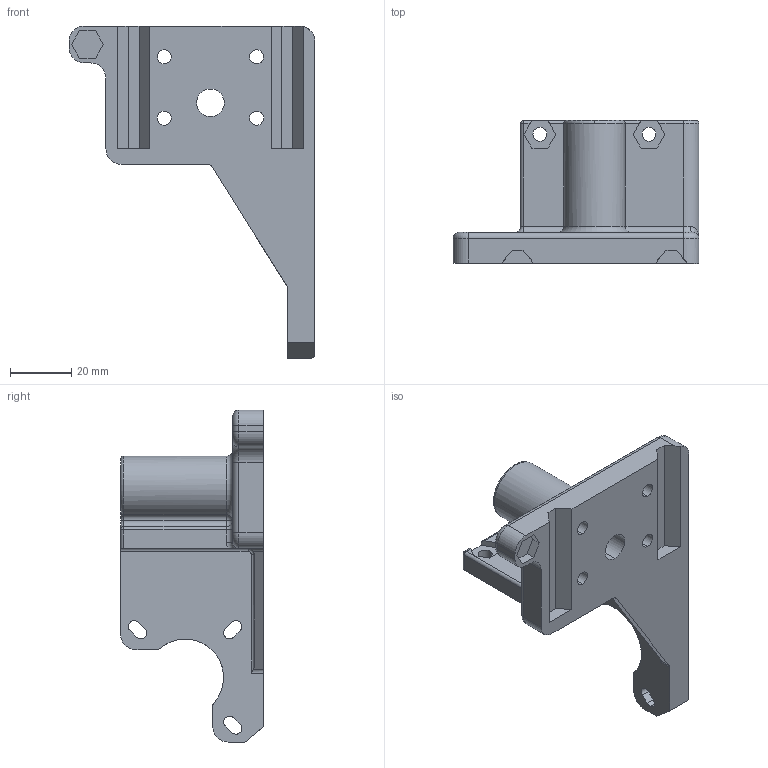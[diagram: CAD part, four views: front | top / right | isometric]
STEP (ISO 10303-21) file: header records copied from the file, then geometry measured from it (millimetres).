
FILE_DESCRIPTION (( 'STEP AP203' ), '1' );
FILE_NAME ('X ROD MOUNT TOP LEFT.STEP', '2012-08-20T19:13:44', ( '' ), ( '' ), 'SwSTEP 2.0', 'SolidWorks 2012', '' );
FILE_SCHEMA (( 'CONFIG_CONTROL_DESIGN' ));
Length unit declared in the file: millimetre
Products named in the file (1): X ROD MOUNT TOP LEFT
Bounding box: 80 x 46.45 x 108 mm (x, y, z)
Volume: 66742.6 mm3; surface area: 24122.5 mm2
Topology: 1 solids, 1 shells, 160 faces, 419 edges, 257 vertices
Faces by surface type: cylinder 69, plane 62, torus 21, sphere 7, bspline 1
Entity records: 5046 total; most frequent: CARTESIAN_POINT 946, DIRECTION 879, ORIENTED_EDGE 824, EDGE_CURVE 412, AXIS2_PLACEMENT_3D 320, VERTEX_POINT 257, LINE 239, VECTOR 239
